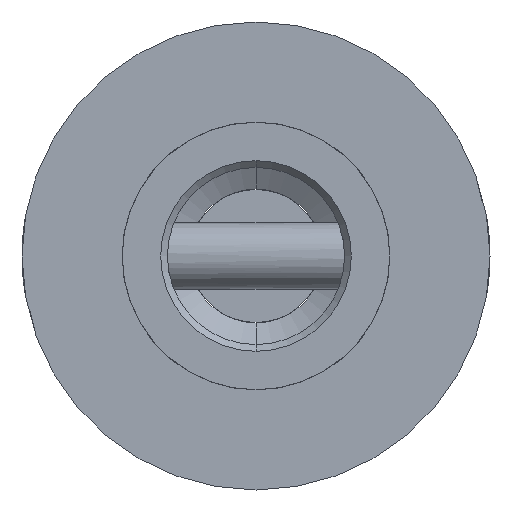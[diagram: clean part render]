
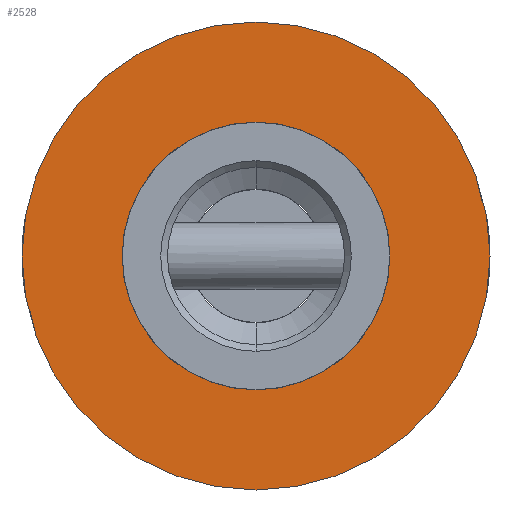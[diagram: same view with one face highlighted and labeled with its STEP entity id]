
A CAD part, front view. The second image highlights one B-rep face of the part: STEP entity #2528.
In plain terms, the highlighted planar face has unit normal (0, -1, 0).
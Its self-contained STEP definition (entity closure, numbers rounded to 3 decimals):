
#10 = VERTEX_POINT ( 'NONE', #2315 ) ;
#44 = DIRECTION ( 'NONE',  ( 0., 0., -1. ) ) ;
#61 = EDGE_LOOP ( 'NONE', ( #3235, #330 ) ) ;
#65 = DIRECTION ( 'NONE',  ( 0., -1., 0. ) ) ;
#75 = CARTESIAN_POINT ( 'NONE',  ( 0., -400., 0. ) ) ;
#119 = CARTESIAN_POINT ( 'NONE',  ( 0., -400., 4.005 ) ) ;
#121 = DIRECTION ( 'NONE',  ( 0., 0., -1. ) ) ;
#172 = DIRECTION ( 'NONE',  ( 0., -1., 0. ) ) ;
#330 = ORIENTED_EDGE ( 'NONE', *, *, #981, .T. ) ;
#359 = PLANE ( 'NONE',  #1222 ) ;
#416 = EDGE_CURVE ( 'NONE', #448, #2543, #3309, .T. ) ;
#423 = CARTESIAN_POINT ( 'NONE',  ( 0., -400., 7. ) ) ;
#448 = VERTEX_POINT ( 'NONE', #2386 ) ;
#450 = CIRCLE ( 'NONE', #2599, 7. ) ;
#711 = AXIS2_PLACEMENT_3D ( 'NONE', #2312, #2288, #2277 ) ;
#727 = EDGE_LOOP ( 'NONE', ( #1950, #2516 ) ) ;
#762 = EDGE_CURVE ( 'NONE', #1201, #10, #1585, .T. ) ;
#814 = CIRCLE ( 'NONE', #1948, 4.005 ) ;
#981 = EDGE_CURVE ( 'NONE', #2543, #448, #450, .T. ) ;
#1076 = CARTESIAN_POINT ( 'NONE',  ( 0., -400., 0. ) ) ;
#1157 = AXIS2_PLACEMENT_3D ( 'NONE', #1076, #2916, #2903 ) ;
#1191 = CARTESIAN_POINT ( 'NONE',  ( 0., -400., 0. ) ) ;
#1201 = VERTEX_POINT ( 'NONE', #119 ) ;
#1222 = AXIS2_PLACEMENT_3D ( 'NONE', #1191, #172, #121 ) ;
#1454 = DIRECTION ( 'NONE',  ( 0., -1., 0. ) ) ;
#1585 = CIRCLE ( 'NONE', #1157, 4.005 ) ;
#1640 = DIRECTION ( 'NONE',  ( 0., 0., -1. ) ) ;
#1909 = EDGE_CURVE ( 'NONE', #10, #1201, #814, .T. ) ;
#1948 = AXIS2_PLACEMENT_3D ( 'NONE', #75, #65, #44 ) ;
#1950 = ORIENTED_EDGE ( 'NONE', *, *, #1909, .F. ) ;
#2266 = FACE_BOUND ( 'NONE', #727, .T. ) ;
#2277 = DIRECTION ( 'NONE',  ( 0., 0., -1. ) ) ;
#2288 = DIRECTION ( 'NONE',  ( 0., -1., 0. ) ) ;
#2312 = CARTESIAN_POINT ( 'NONE',  ( 0., -400., 0. ) ) ;
#2315 = CARTESIAN_POINT ( 'NONE',  ( 0., -400., -4.005 ) ) ;
#2350 = FACE_OUTER_BOUND ( 'NONE', #61, .T. ) ;
#2386 = CARTESIAN_POINT ( 'NONE',  ( 0., -400., -7. ) ) ;
#2516 = ORIENTED_EDGE ( 'NONE', *, *, #762, .F. ) ;
#2528 = ADVANCED_FACE ( 'NONE', ( #2266, #2350 ), #359, .T. ) ;
#2535 = CARTESIAN_POINT ( 'NONE',  ( 0., -400., 0. ) ) ;
#2543 = VERTEX_POINT ( 'NONE', #423 ) ;
#2599 = AXIS2_PLACEMENT_3D ( 'NONE', #2535, #1454, #1640 ) ;
#2903 = DIRECTION ( 'NONE',  ( 0., 0., -1. ) ) ;
#2916 = DIRECTION ( 'NONE',  ( 0., -1., 0. ) ) ;
#3235 = ORIENTED_EDGE ( 'NONE', *, *, #416, .T. ) ;
#3309 = CIRCLE ( 'NONE', #711, 7. ) ;
